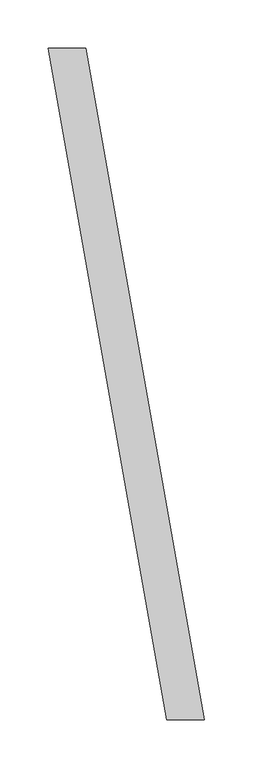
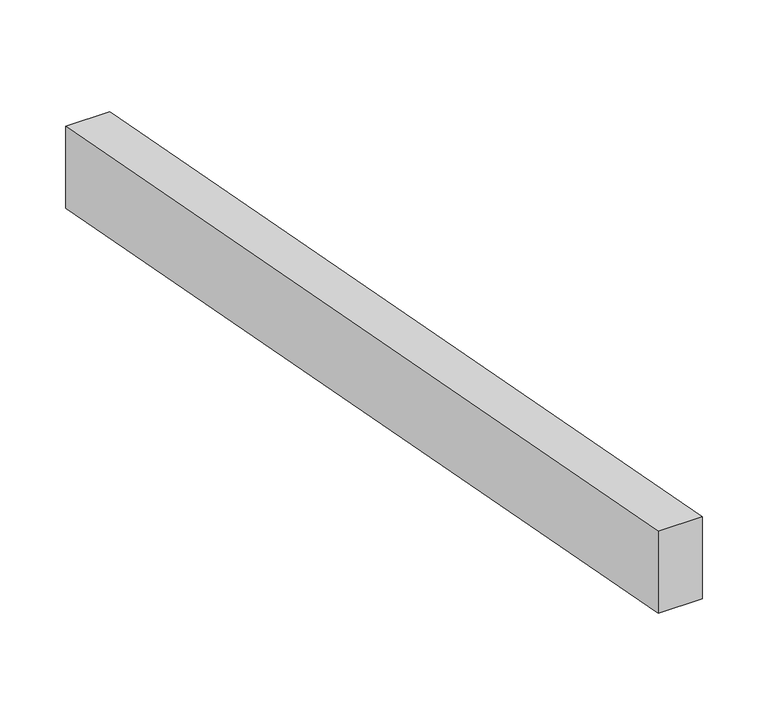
"""IFC4 building model written with IfcOpenShell, lengths in millimetres: proxy geometry, GRADIENT^TABLE 1_OCTAGON LEGS-LEG 2."""

from ifc_helpers import new_model, si_unit, frame, origin, place, context, project, spatial, polyline, outline, extrude, source, transform, mapped, element, save


def generic_models_21132f95(model_context):
    return source(origin(), model_context, "Body", "SweptSolid", [
        extrude(outline(polyline([(182.1675264, 692.15), (220.8552803, 692.15), (342.9, 0.0), (304.2122461, 0.0), (182.1675264, 692.15)])), frame((0.0, 0.0, -38.1), z_axis=(0.0, 0.0, 1.0), x_axis=(1.0, 0.0, 0.0)), (0.0, 0.0, 1.0), 76.2),
    ])


if __name__ == "__main__":
    model = new_model("IFC4")
    model_context = context("Model", 3, world=origin())
    ifc_project = project(units=[si_unit("LENGTHUNIT", "METRE", prefix="MILLI")], contexts=[model_context])
    site = spatial("IfcSite", under=ifc_project)
    building = spatial("IfcBuilding", under=site)
    placement = place(None, origin())
    generic_models_shape = generic_models_21132f95(model_context)
    element("IfcBuildingElementProxy", 1, Name="GRADIENT^TABLE 1_OCTAGON LEGS-LEG 2", ObjectType="GRADIENT^TABLE 1_OCTAGON LEGS-LEG 2", at=placement, inside=building, context=model_context, shape_type="MappedRepresentation", body=[
        mapped(generic_models_shape, transform((0.0, 0.0, 0.0), x_axis=(1.0, 0.0, 0.0), y_axis=(0.0, 1.0, 0.0), z_axis=(0.0, 0.0, 1.0))),
    ])
    save(model, "model.ifc")
